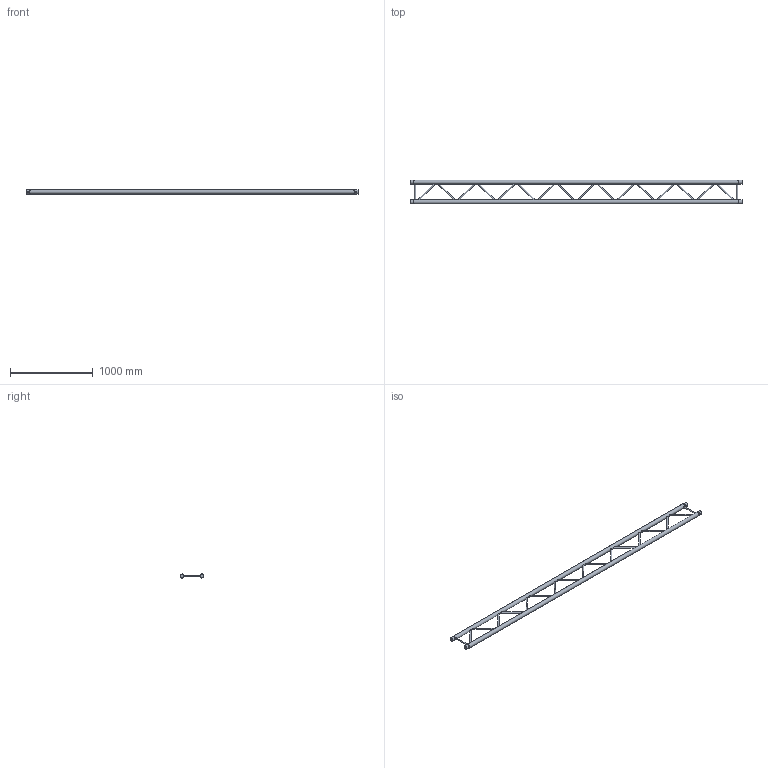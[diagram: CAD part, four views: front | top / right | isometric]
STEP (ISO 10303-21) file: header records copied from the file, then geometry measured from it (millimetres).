
FILE_DESCRIPTION(/* description */ (''),/* implementation_level */ '2;1');
FILE_NAME(/* name */ 'C:\Users\stephan\Desktop\Nieuwe map\H30L\111050055.stp',/* time_stamp */ '2016-09-12T12:00:53+02:00',/* author */ ('Stephan'),/* organization */ (''),/* preprocessor_version */ 'ST-DEVELOPER v15.6',/* originating_system */ 'Autodesk Inventor 2015',/* authorisation */ '');
FILE_SCHEMA (('AUTOMOTIVE_DESIGN { 1 0 10303 214 3 1 1 }'));
Length unit declared in the file: millimetre
Products named in the file (1): 160026997
Bounding box: 4000 x 287.3 x 48.3 mm (x, y, z)
Volume: 4620570.6 mm3; surface area: 2526652.2 mm2
Topology: 20 solids, 22 shells, 158 faces, 290 edges, 180 vertices
Faces by surface type: plane 88, cylinder 66, cone 4
Full cylindrical faces by diameter (mm): 10 x4, 16 x18, 41.8 x4, 42.3 x2, 48.3 x6
Entity records: 4162 total; most frequent: CARTESIAN_POINT 1155, DIRECTION 522, ORIENTED_EDGE 504, EDGE_CURVE 248, AXIS2_PLACEMENT_3D 227, EDGE_LOOP 216, VERTEX_POINT 180, STYLED_ITEM 127
